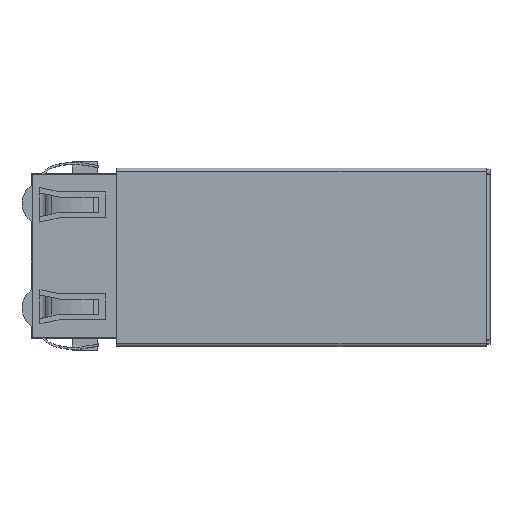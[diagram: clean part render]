
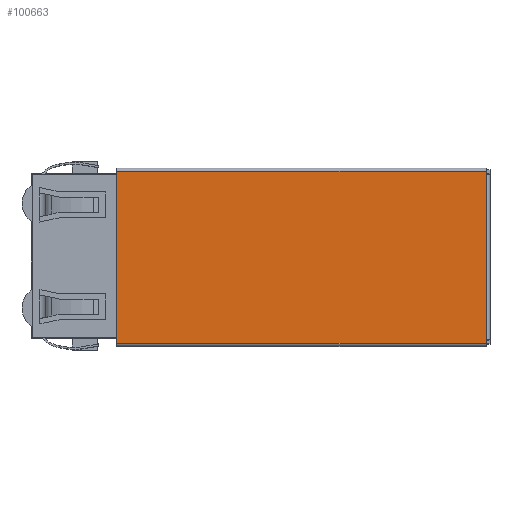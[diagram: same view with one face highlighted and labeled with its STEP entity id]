
A CAD part, top view. The second image highlights one B-rep face of the part: STEP entity #100663.
In plain terms, the highlighted planar face has unit normal (0, 0, 1).
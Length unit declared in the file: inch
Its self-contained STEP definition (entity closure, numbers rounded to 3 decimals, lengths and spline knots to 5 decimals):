
#100606=CARTESIAN_POINT('',(0.91577,-0.10476,0.3986));
#100607=VERTEX_POINT('',#100606);
#100615=CARTESIAN_POINT('',(2.36577,-0.10476,0.3986));
#100616=VERTEX_POINT('',#100615);
#100617=CARTESIAN_POINT('',(2.36577,-0.10476,0.3986));
#100618=DIRECTION('',(-1.0,0.0,0.0));
#100619=VECTOR('',#100618,1.45);
#100620=LINE('',#100617,#100619);
#100621=EDGE_CURVE('',#100616,#100607,#100620,.T.);
#100633=CARTESIAN_POINT('',(1.64077,-0.43726,0.3986));
#100634=DIRECTION('',(0.0,0.0,1.0));
#100635=DIRECTION('',(0.0,-1.0,0.0));
#100636=AXIS2_PLACEMENT_3D('',#100633,#100634,#100635);
#100637=PLANE('',#100636);
#100638=ORIENTED_EDGE('',*,*,#100621,.T.);
#100639=CARTESIAN_POINT('',(0.91577,-0.77976,0.3986));
#100640=VERTEX_POINT('',#100639);
#100641=CARTESIAN_POINT('',(0.91577,-0.77976,0.3986));
#100642=DIRECTION('',(0.0,1.0,0.0));
#100643=VECTOR('',#100642,0.675);
#100644=LINE('',#100641,#100643);
#100645=EDGE_CURVE('',#100640,#100607,#100644,.T.);
#100646=ORIENTED_EDGE('',*,*,#100645,.F.);
#100647=CARTESIAN_POINT('',(2.36577,-0.77976,0.3986));
#100648=VERTEX_POINT('',#100647);
#100649=CARTESIAN_POINT('',(0.91577,-0.77976,0.3986));
#100650=DIRECTION('',(1.0,0.0,0.0));
#100651=VECTOR('',#100650,1.45);
#100652=LINE('',#100649,#100651);
#100653=EDGE_CURVE('',#100640,#100648,#100652,.T.);
#100654=ORIENTED_EDGE('',*,*,#100653,.T.);
#100655=CARTESIAN_POINT('',(2.36577,-0.10476,0.3986));
#100656=DIRECTION('',(0.0,-1.0,0.0));
#100657=VECTOR('',#100656,0.675);
#100658=LINE('',#100655,#100657);
#100659=EDGE_CURVE('',#100616,#100648,#100658,.T.);
#100660=ORIENTED_EDGE('',*,*,#100659,.F.);
#100661=EDGE_LOOP('',(#100638,#100646,#100654,#100660));
#100662=FACE_OUTER_BOUND('',#100661,.T.);
#100663=ADVANCED_FACE('',(#100662),#100637,.T.);
